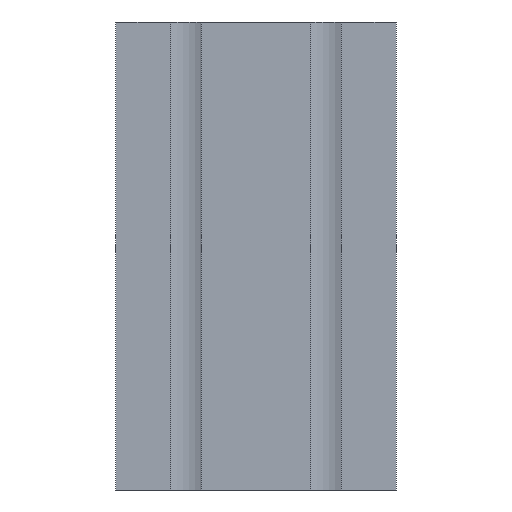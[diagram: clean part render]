
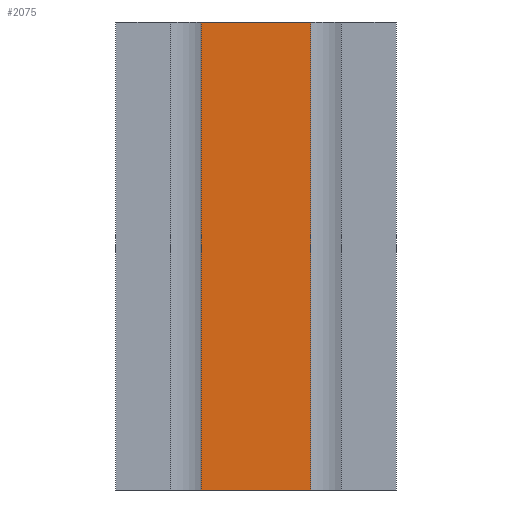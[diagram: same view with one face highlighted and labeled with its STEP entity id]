
A CAD part, front view. The second image highlights one B-rep face of the part: STEP entity #2075.
In plain terms, the highlighted planar face has unit normal (0, -1, 0).
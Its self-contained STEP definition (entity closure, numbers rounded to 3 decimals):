
#468=ORIENTED_EDGE('',*,*,#909,.T.);
#469=ORIENTED_EDGE('',*,*,#910,.F.);
#470=ORIENTED_EDGE('',*,*,#911,.F.);
#471=ORIENTED_EDGE('',*,*,#708,.F.);
#708=EDGE_CURVE('',#999,#1000,#1187,.T.);
#909=EDGE_CURVE('',#999,#1133,#1364,.T.);
#910=EDGE_CURVE('',#1134,#1133,#1365,.T.);
#911=EDGE_CURVE('',#1000,#1134,#1366,.T.);
#999=VERTEX_POINT('',#2883);
#1000=VERTEX_POINT('',#2885);
#1133=VERTEX_POINT('',#3293);
#1134=VERTEX_POINT('',#3297);
#1187=LINE('',#2884,#1439);
#1364=LINE('',#3294,#1616);
#1365=LINE('',#3296,#1617);
#1366=LINE('',#3298,#1618);
#1439=VECTOR('',#2318,1000.);
#1616=VECTOR('',#2693,1000.);
#1617=VECTOR('',#2696,1000.);
#1618=VECTOR('',#2697,1000.);
#1754=EDGE_LOOP('',(#468,#469,#470,#471));
#1882=FACE_BOUND('',#1754,.T.);
#1976=PLANE('',#2227);
#2075=ADVANCED_FACE('',(#1882),#1976,.T.);
#2227=AXIS2_PLACEMENT_3D('',#3295,#2694,#2695);
#2318=DIRECTION('',(-1.,0.,0.));
#2693=DIRECTION('',(0.,0.,1.));
#2694=DIRECTION('',(0.,-1.,0.));
#2695=DIRECTION('',(1.,0.,0.));
#2696=DIRECTION('',(1.,0.,0.));
#2697=DIRECTION('',(0.,0.,1.));
#2883=CARTESIAN_POINT('',(11.75,-30.,-50.));
#2884=CARTESIAN_POINT('',(0.,-30.,-50.));
#2885=CARTESIAN_POINT('',(-11.75,-30.,-50.));
#3293=CARTESIAN_POINT('',(11.75,-30.,50.));
#3294=CARTESIAN_POINT('',(11.75,-30.,0.));
#3295=CARTESIAN_POINT('',(18.25,-30.,0.));
#3296=CARTESIAN_POINT('',(0.,-30.,50.));
#3297=CARTESIAN_POINT('',(-11.75,-30.,50.));
#3298=CARTESIAN_POINT('',(-11.75,-30.,0.));
